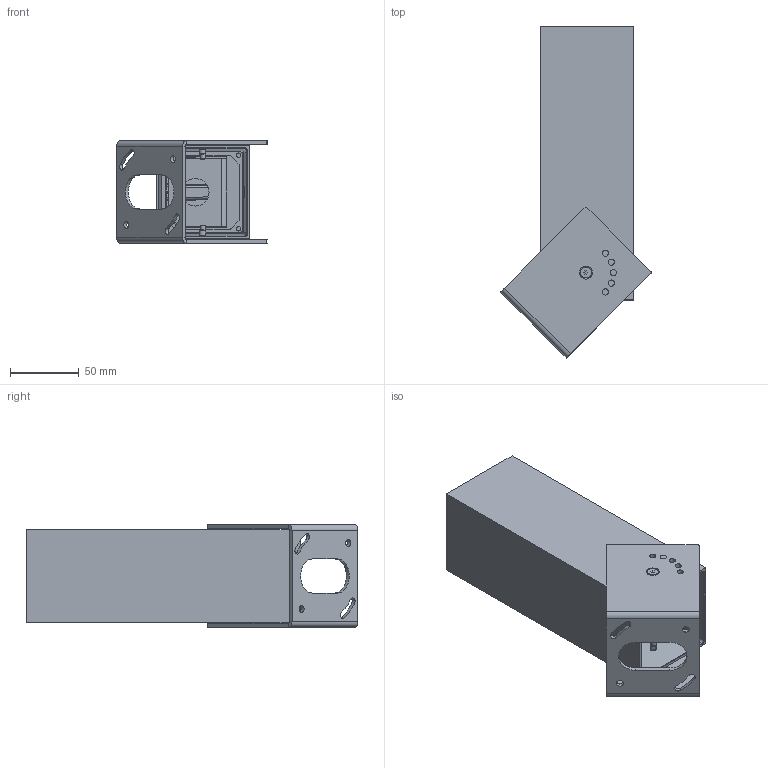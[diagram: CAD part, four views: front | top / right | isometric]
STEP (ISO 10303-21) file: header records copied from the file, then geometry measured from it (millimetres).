
FILE_DESCRIPTION((''),'2;1');
FILE_NAME('FLAG330-STAFFA_SW0001','2025-07-23T10:46:10',('Piccioli'),(''),'CREO PARAMETRIC BY PTC INC, 2025010','CREO PARAMETRIC BY PTC INC, 2025010','');
FILE_SCHEMA(('CONFIG_CONTROL_DESIGN'));
Products named in the file (1): FLAG330-STAFFA_SW0001
Bounding box: 109.89 x 242.23 x 75 mm (x, y, z)
Surface area: 171755.3 mm2 (no closed solid volume)
Topology: 0 solids, 53 shells, 833 faces, 3814 edges, 2957 vertices
Faces by surface type: plane 343, cylinder 159, bspline 151, cone 105, extrusion 48, torus 19, sphere 6, revolution 2
Entity records: 54397 total; most frequent: CARTESIAN_POINT 27512, ORIENTED_EDGE 5153, DIRECTION 4561, EDGE_CURVE 3812, VERTEX_POINT 2957, AXIS2_PLACEMENT_3D 1528, B_SPLINE_CURVE_WITH_KNOTS 1511, VECTOR 1503
